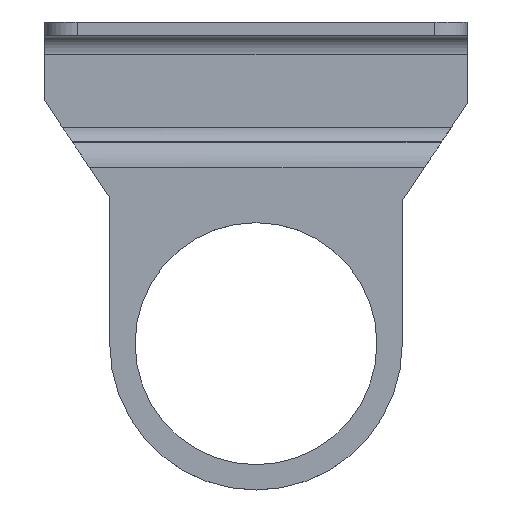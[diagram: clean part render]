
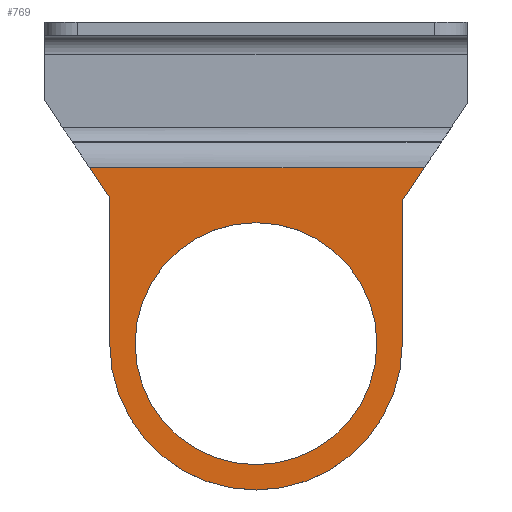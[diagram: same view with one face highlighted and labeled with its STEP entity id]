
A CAD part, top view. The second image highlights one B-rep face of the part: STEP entity #769.
In plain terms, the highlighted planar face has unit normal (0, 0, 1).
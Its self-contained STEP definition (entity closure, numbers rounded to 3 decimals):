
#683=CARTESIAN_POINT('',(25.897,-22.332,1.954));
#684=VERTEX_POINT('',#683);
#693=CARTESIAN_POINT('',(-25.612,-22.332,1.954));
#694=VERTEX_POINT('',#693);
#702=CARTESIAN_POINT('',(-25.612,-22.332,1.954));
#703=DIRECTION('',(1.0,0.0,0.0));
#704=VECTOR('',#703,51.509);
#705=LINE('',#702,#704);
#706=EDGE_CURVE('',#694,#684,#705,.T.);
#711=CARTESIAN_POINT('',(0.0,-80.0,1.954));
#712=DIRECTION('',(0.0,0.0,1.0));
#713=DIRECTION('',(1.0,0.0,0.0));
#714=AXIS2_PLACEMENT_3D('',#711,#712,#713);
#715=PLANE('',#714);
#716=ORIENTED_EDGE('',*,*,#706,.F.);
#717=CARTESIAN_POINT('',(-22.5,-27.,1.954));
#718=VERTEX_POINT('',#717);
#719=CARTESIAN_POINT('',(-25.612,-22.332,1.954));
#720=DIRECTION('',(0.555,-0.832,0.));
#721=VECTOR('',#720,5.611);
#722=LINE('',#719,#721);
#723=EDGE_CURVE('',#694,#718,#722,.T.);
#724=ORIENTED_EDGE('',*,*,#723,.T.);
#725=CARTESIAN_POINT('',(-22.5,-49.4,1.954));
#726=VERTEX_POINT('',#725);
#727=CARTESIAN_POINT('',(-22.5,-27.,1.954));
#728=DIRECTION('',(0.0,-1.0,0.0));
#729=VECTOR('',#728,22.4);
#730=LINE('',#727,#729);
#731=EDGE_CURVE('',#718,#726,#730,.T.);
#732=ORIENTED_EDGE('',*,*,#731,.T.);
#733=CARTESIAN_POINT('',(22.5,-49.4,1.954));
#734=VERTEX_POINT('',#733);
#735=CARTESIAN_POINT('',(0.0,-49.4,1.954));
#736=DIRECTION('',(0.0,0.0,1.0));
#737=DIRECTION('',(1.0,0.0,0.0));
#738=AXIS2_PLACEMENT_3D('',#735,#736,#737);
#739=CIRCLE('',#738,22.5);
#740=EDGE_CURVE('',#726,#734,#739,.T.);
#741=ORIENTED_EDGE('',*,*,#740,.T.);
#742=CARTESIAN_POINT('',(22.5,-27.427,1.954));
#743=VERTEX_POINT('',#742);
#744=CARTESIAN_POINT('',(22.5,-49.4,1.954));
#745=DIRECTION('',(0.0,1.0,0.0));
#746=VECTOR('',#745,21.973);
#747=LINE('',#744,#746);
#748=EDGE_CURVE('',#734,#743,#747,.T.);
#749=ORIENTED_EDGE('',*,*,#748,.T.);
#750=CARTESIAN_POINT('',(22.5,-27.427,1.954));
#751=DIRECTION('',(0.555,0.832,0.));
#752=VECTOR('',#751,6.124);
#753=LINE('',#750,#752);
#754=EDGE_CURVE('',#743,#684,#753,.T.);
#755=ORIENTED_EDGE('',*,*,#754,.T.);
#756=EDGE_LOOP('',(#716,#724,#732,#741,#749,#755));
#757=FACE_OUTER_BOUND('',#756,.T.);
#758=CARTESIAN_POINT('',(18.6,-49.4,1.954));
#759=VERTEX_POINT('',#758);
#760=CARTESIAN_POINT('',(0.0,-49.4,1.954));
#761=DIRECTION('',(0.0,0.0,-1.0));
#762=DIRECTION('',(-1.0,0.0,0.0));
#763=AXIS2_PLACEMENT_3D('',#760,#761,#762);
#764=CIRCLE('',#763,18.6);
#765=EDGE_CURVE('',#759,#759,#764,.T.);
#766=ORIENTED_EDGE('',*,*,#765,.T.);
#767=EDGE_LOOP('',(#766));
#768=FACE_BOUND('',#767,.T.);
#769=ADVANCED_FACE('',(#757,#768),#715,.T.);
